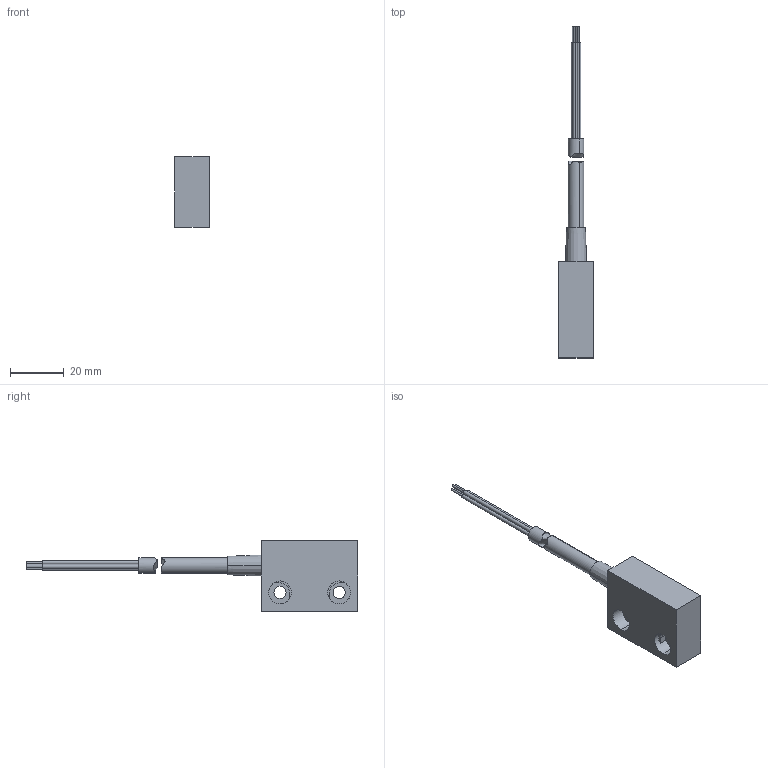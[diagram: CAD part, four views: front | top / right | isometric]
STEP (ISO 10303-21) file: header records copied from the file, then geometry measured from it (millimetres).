
FILE_DESCRIPTION (( 'STEP AP214' ), '1' );
FILE_NAME ('N520_N521_N525_N526.STEP', '2025-06-12T13:56:22', ( '' ), ( '' ), 'SwSTEP 2.0', 'SolidWorks 2025', '' );
FILE_SCHEMA (( 'AUTOMOTIVE_DESIGN' ));
Length unit declared in the file: millimetre
Products named in the file (5): cope6; Cavo QE; N520_N521_N525_N526; corpo6; passa6
Assembly tree (4 placements, depth 2):
  N520_N521_N525_N526
    corpo6
    cope6
    passa6
    Cavo QE
Bounding box: 13 x 123.5 x 26.2 mm (x, y, z)
Volume: 12886.5 mm3; surface area: 7909.4 mm2
Topology: 5 solids, 5 shells, 114 faces, 252 edges, 164 vertices
Faces by surface type: plane 52, cylinder 46, torus 12, cone 2, bspline 2
Entity records: 4222 total; most frequent: CARTESIAN_POINT 1253, DIRECTION 606, ORIENTED_EDGE 504, EDGE_CURVE 252, AXIS2_PLACEMENT_3D 239, VERTEX_POINT 164, EDGE_LOOP 136, LINE 128
